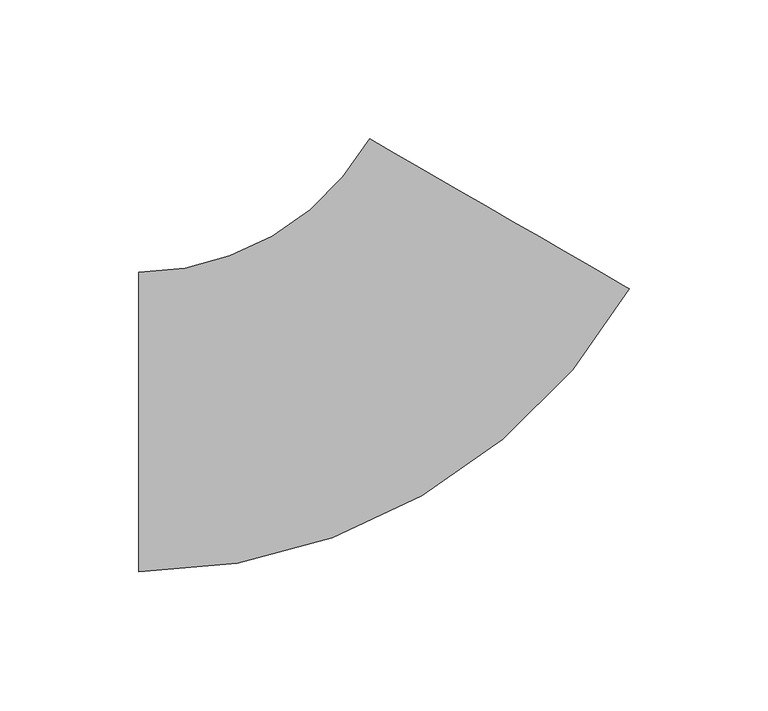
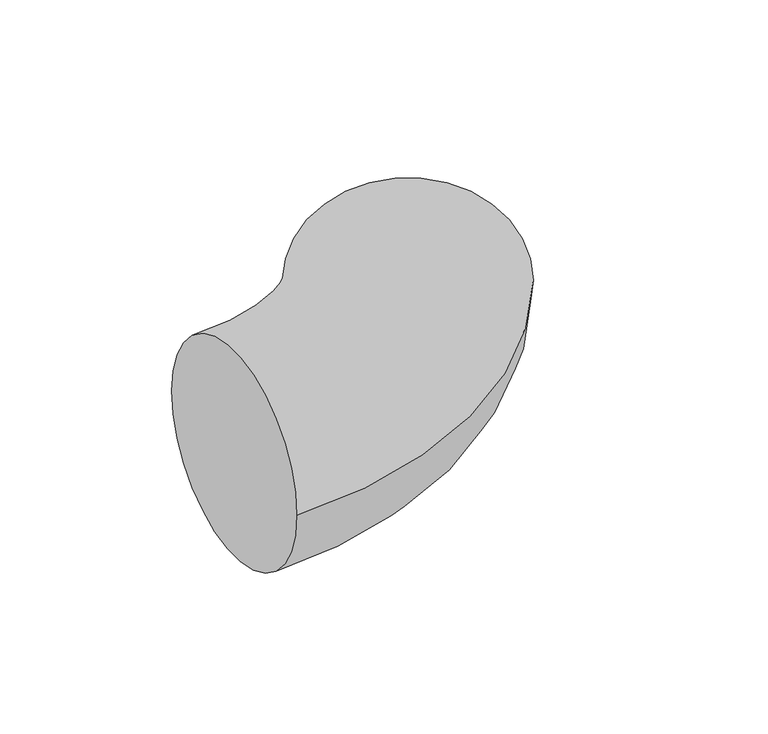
"""IFC4 building model written with IfcOpenShell, lengths in millimetres: pipe fitting geometry, ADSK_ДетальСтальнаяСварная_Отвод_ГОСТ17375-2001 : Исполнение 2."""

import ifcopenshell
import ifcopenshell.guid

model = None  # the IFC model being written
_history = None  # IfcOwnerHistory: only IFC2X3 demands one
_inside = {}  # id of a spatial element -> (the spatial element, [elements in it])
_under = {}  # id of a project, library or spatial element -> (it, [spatial elements below it])
_declared = {}  # id of a project -> (the project, [libraries it declares])
_typed = {}  # id of a type object -> (the type object, [elements of that type])
_made_of = {}  # id of a material, layer set ... -> (it, [elements and type objects made of it])


def new_model(schema):
    """Start an empty IFC model of exactly this schema.

    Asked for "IFC4X3", IfcOpenShell would pick the latest addendum, in which some entities
    have other attributes; the version numbers below select the first issue.
    IFC2X3 requires an IfcOwnerHistory on every rooted entity: one is made here for all.
    """
    global model, _history
    if schema == "IFC4X3":
        model = ifcopenshell.file(schema_version=(4, 3, 0, 0))
    else:
        model = ifcopenshell.file(schema=schema)
    _inside.clear()
    _under.clear()
    _declared.clear()
    _typed.clear()
    _made_of.clear()
    _history = None
    if model.schema == "IFC2X3":
        org = make("IfcOrganization", Name="unknown")
        user = make(
            "IfcPersonAndOrganization",
            ThePerson=make("IfcPerson", FamilyName="unknown"),
            TheOrganization=org,
        )
        app = make(
            "IfcApplication",
            ApplicationDeveloper=org,
            Version="unknown",
            ApplicationFullName="unknown",
            ApplicationIdentifier="unknown",
        )
        _history = make(
            "IfcOwnerHistory",
            OwningUser=user,
            OwningApplication=app,
            ChangeAction="ADDED",
            CreationDate=0,
        )
    return model


def make(cls, **values):
    """One entity of the class cls with the attributes given. An attribute that is None is left unset."""
    return model.create_entity(
        cls, **{name: value for name, value in values.items() if value is not None}
    )


def rooted(cls, **values):
    """An entity with a GlobalId (a new one), such as an element, a storey or a relation."""
    return make(cls, GlobalId=ifcopenshell.guid.new(), OwnerHistory=_history, **values)


def si_unit(unit_type, name, prefix=None):
    """IfcSIUnit, for example si_unit("LENGTHUNIT", "METRE", prefix="MILLI")."""
    return make("IfcSIUnit", UnitType=unit_type, Prefix=prefix, Name=name)


def assignment(units):
    """IfcUnitAssignment: the units of a project."""
    return None if units is None else make("IfcUnitAssignment", Units=units)


def point(xyz):
    """IfcCartesianPoint."""
    return None if xyz is None else make("IfcCartesianPoint", Coordinates=xyz)


def direction(xyz):
    """IfcDirection."""
    return None if xyz is None else make("IfcDirection", DirectionRatios=xyz)


def frame(location, z_axis=None, x_axis=None):
    """IfcAxis2Placement3D, a coordinate frame: its origin and axes. An axis left out is left unset."""
    return make(
        "IfcAxis2Placement3D",
        Location=point(location),
        Axis=direction(z_axis),
        RefDirection=direction(x_axis),
    )


def origin():
    """The frame at (0, 0, 0) with its axes left unset."""
    return frame((0.0, 0.0, 0.0))


def place(relative_to, where):
    """IfcLocalPlacement: puts the frame where relative to a parent placement (None: the world)."""
    return make(
        "IfcLocalPlacement", PlacementRelTo=relative_to, RelativePlacement=where
    )


def context(
    kind, dimensions, precision=None, world=None, true_north=None, identifier=None
):
    """IfcGeometricRepresentationContext, for example the 3D "Model" context."""
    return make(
        "IfcGeometricRepresentationContext",
        ContextIdentifier=identifier,
        ContextType=kind,
        CoordinateSpaceDimension=dimensions,
        Precision=precision,
        WorldCoordinateSystem=world,
        TrueNorth=true_north,
    )


def project(units=None, contexts=None):
    """IfcProject with its units and contexts."""
    return rooted(
        "IfcProject",
        Name="project",
        RepresentationContexts=contexts,
        UnitsInContext=assignment(units),
    )


def spatial(cls, under=None, at=None, **own):
    """A site, building, storey or space (cls), placed at a placement, below another one or the project."""
    s = rooted(cls, ObjectPlacement=at, **own)
    if under is not None:
        _under.setdefault(under.id(), (under, []))[1].append(s)
    return s


def circle_curve(where, radius):
    """IfcCircle in the frame where."""
    return make("IfcCircle", Position=where, Radius=radius)


def ellipse_curve(where, semi_axis1, semi_axis2):
    """IfcEllipse in the frame where."""
    return make(
        "IfcEllipse", Position=where, SemiAxis1=semi_axis1, SemiAxis2=semi_axis2
    )


def trimmed(basis, trim1, trim2, sense, master):
    """IfcTrimmedCurve: the piece of a basis curve between two trims."""
    return make(
        "IfcTrimmedCurve",
        BasisCurve=basis,
        Trim1=trim1,
        Trim2=trim2,
        SenseAgreement=sense,
        MasterRepresentation=master,
    )


def shape(context_of_items, identifier, shape_type, items):
    """IfcShapeRepresentation: the items that make up one representation, for example the "Body"."""
    return make(
        "IfcShapeRepresentation",
        ContextOfItems=context_of_items,
        RepresentationIdentifier=identifier,
        RepresentationType=shape_type,
        Items=items,
    )


def source(mapping_origin, context_of_items, identifier, shape_type, items):
    """IfcRepresentationMap: a shape defined once, which mapped items show again and again."""
    return make(
        "IfcRepresentationMap",
        MappingOrigin=mapping_origin,
        MappedRepresentation=shape(context_of_items, identifier, shape_type, items),
    )


def transform(
    local_origin,
    x_axis=None,
    y_axis=None,
    z_axis=None,
    scale=None,
    scale2=None,
    scale3=None,
    uniform=True,
):
    """IfcCartesianTransformationOperator3D, or its non-uniform kind. x_axis, y_axis, z_axis: its Axis1, 2, 3."""
    if uniform:
        return make(
            "IfcCartesianTransformationOperator3D",
            Axis1=direction(x_axis),
            Axis2=direction(y_axis),
            LocalOrigin=point(local_origin),
            Scale=scale,
            Axis3=direction(z_axis),
        )
    return make(
        "IfcCartesianTransformationOperator3DnonUniform",
        Axis1=direction(x_axis),
        Axis2=direction(y_axis),
        LocalOrigin=point(local_origin),
        Scale=scale,
        Axis3=direction(z_axis),
        Scale2=scale2,
        Scale3=scale3,
    )


def mapped(mapping_source, mapping_target):
    """IfcMappedItem: shows the shape of a source again, moved by a transform."""
    return make(
        "IfcMappedItem", MappingSource=mapping_source, MappingTarget=mapping_target
    )


def made_of(thing, what):
    """Note that an element or type object is made of a material, layer set ...; save() writes the relation."""
    if what is not None:
        _made_of.setdefault(what.id(), (what, []))[1].append(thing)
    return thing


def element(
    cls,
    number,
    at=None,
    inside=None,
    cuts=None,
    type_object=None,
    material=None,
    context=None,
    identifier="Body",
    shape_type=None,
    held_by="IfcProductDefinitionShape",
    body=None,
    shapes=None,
    **own,
):
    """One element of the class cls, such as IfcWall. Its Tag is "e" and its number.

    at: its placement. inside: the storey or other place that contains it. cuts: it is an
    opening in that element (IfcRelVoidsElement). A single representation is given by context,
    identifier, shape_type and body (its items); several are given by shapes. held_by: the class
    of the entity that holds the representations. save() writes the other relations.
    """
    e = rooted(cls, Tag="e%d" % number, ObjectPlacement=at, **own)
    if body is not None:
        shapes = [shape(context, identifier, shape_type, body)]
    if shapes is not None:
        e.Representation = make(held_by, Representations=shapes)
    if inside is not None:
        _inside.setdefault(inside.id(), (inside, []))[1].append(e)
    if cuts is not None:
        rooted(
            "IfcRelVoidsElement", RelatingBuildingElement=cuts, RelatedOpeningElement=e
        )
    if type_object is not None:
        _typed.setdefault(type_object.id(), (type_object, []))[1].append(e)
    return made_of(e, material)


def aggregate(whole, parts):
    """IfcRelAggregates: a whole, such as a stair, and the parts it consists of."""
    return rooted("IfcRelAggregates", RelatingObject=whole, RelatedObjects=parts)


def save(model, path):
    """Write the relations noted so far, then the file.

    IfcRelAggregates (storeys below a building ...), IfcRelContainedInSpatialStructure (elements
    in a storey), IfcRelDefinesByType, IfcRelAssociatesMaterial and IfcRelDeclares: one each for
    every whole, place, type object, material and project.
    """
    for whole, parts in _under.values():
        aggregate(whole, parts)
    for where, things in _inside.values():
        rooted(
            "IfcRelContainedInSpatialStructure",
            RelatedElements=things,
            RelatingStructure=where,
        )
    for kind, things in _typed.values():
        rooted("IfcRelDefinesByType", RelatedObjects=things, RelatingType=kind)
    for what, things in _made_of.values():
        rooted("IfcRelAssociatesMaterial", RelatedObjects=things, RelatingMaterial=what)
    for by, libraries in _declared.values():
        rooted("IfcRelDeclares", RelatingContext=by, RelatedDefinitions=libraries)
    model.write(path)


def plane_surface(at):
    """IfcPlane: the flat surface through the origin of the frame at, square to its z axis."""
    return make("IfcPlane", Position=at)


def revolved_surface(curve, axis_point, axis_direction):
    """IfcSurfaceOfRevolution: the curve turned about the line through axis_point along axis_direction."""
    return make(
        "IfcSurfaceOfRevolution",
        SweptCurve=make("IfcArbitraryOpenProfileDef", ProfileType="CURVE", Curve=curve),
        AxisPosition=make("IfcAxis1Placement", Location=point(axis_point), Axis=direction(axis_direction)),
    )


def advanced_brep(points, edges, surfaces, faces):
    """IfcAdvancedBrep: a solid bounded by faces that lie on surfaces and meet in shared edges.

    An edge is (start, end): straight between two places in points (the first is 0);
    or (start, end, curve); or (start, end, curve, False) where it runs against its curve.
    A face is (place in surfaces, loops), or (place, loops, False) where it looks against
    its surface's normal. A loop lists edges by number (the first is 1), with a minus sign
    where the edge is run from its end to its start. The first loop is the outer one.
    """
    corners = [point(p) for p in points]
    vertices = [make("IfcVertexPoint", VertexGeometry=c) for c in corners]
    made = []
    for start, end, *more in edges:
        made.append(
            make(
                "IfcEdgeCurve",
                EdgeStart=vertices[start],
                EdgeEnd=vertices[end],
                EdgeGeometry=more[0] if more else make("IfcPolyline", Points=[corners[start], corners[end]]),
                SameSense=more[1] if len(more) > 1 else True,
            )
        )
    hull = []
    for where, loops, *sense in faces:
        bounds = []
        for j, loop in enumerate(loops):
            ring = [make("IfcOrientedEdge", EdgeElement=made[abs(k) - 1], Orientation=k > 0) for k in loop]
            bounds.append(
                make(
                    "IfcFaceOuterBound" if j == 0 else "IfcFaceBound",
                    Bound=make("IfcEdgeLoop", EdgeList=ring),
                    Orientation=True,
                )
            )
        hull.append(make("IfcAdvancedFace", Bounds=bounds, FaceSurface=surfaces[where], SameSense=sense[0] if sense else True))
    return make("IfcAdvancedBrep", Outer=make("IfcClosedShell", CfsFaces=hull))


def pipe_fitting_15a9e781(model_context):
    return source(origin(), model_context, "Body", "AdvancedBrep", [
        advanced_brep(
        [(-86.6025404, -54.0, 0.0), (-86.6025404, 54.0, 0.0), (90.066642, 48.0, 0.0), (-3.4641016, 102.0, 0.0)],
        [
            (0, 1, circle_curve(frame((-86.6025404, 0.0, 0.0), z_axis=(-1.0, 0.0, 0.0), x_axis=(0.0, 1.0, 0.0)), 54.0)),
            (1, 0, circle_curve(frame((-86.6025404, 0.0, 0.0), z_axis=(-1.0, 0.0, 0.0), x_axis=(0.0, 1.0, 0.0)), 54.0)),
            (2, 3, circle_curve(frame((43.3012702, 75.0, 0.0), z_axis=(0.49999999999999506, 0.8660254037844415, 0.0), x_axis=(-0.8660254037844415, 0.49999999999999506, 0.0)), 54.0)),
            (3, 2, circle_curve(frame((43.3012702, 75.0, 0.0), z_axis=(0.49999999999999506, 0.8660254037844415, 0.0), x_axis=(-0.8660254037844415, 0.49999999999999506, 0.0)), 54.0)),
            (3, 1, circle_curve(frame((-86.6025404, 150.0, 0.0), z_axis=(0.0, 0.0, -1.0), x_axis=(0.0, -1.0, 0.0)), 96.0)),
            (0, 2, circle_curve(frame((-86.6025404, 150.0, 0.0), z_axis=(0.0, 0.0, 1.0), x_axis=(0.0, -1.0, 0.0)), 204.0)),
        ],
        [
            plane_surface(frame((-86.6025404, 0.0, 0.0), z_axis=(-1.0, 0.0, 0.0), x_axis=(0.0, 0.0, 1.0))),
            plane_surface(frame((43.3012702, 75.0, 0.0), z_axis=(0.4999999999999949, 0.8660254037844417, 0.0), x_axis=(0.0, 0.0, 1.0))),
            revolved_surface(trimmed(ellipse_curve(frame((-86.6025404, 0.0, 0.0), z_axis=(-1.0, 0.0, 0.0), x_axis=(0.0, 1.0, 0.0)), 54.0, 54.0), [point((-86.6025404, -54.0, 0.0))], [point((-86.6025404, 54.0, 0.0))], True, "CARTESIAN"), (-86.6025404, 150.0, 0.0), (0.0, 0.0, 1.0)),
            revolved_surface(trimmed(ellipse_curve(frame((-86.6025404, 0.0, 0.0), z_axis=(-1.0, 0.0, 0.0), x_axis=(0.0, 1.0, 0.0)), 54.0, 54.0), [point((-86.6025404, 54.0, 0.0))], [point((-86.6025404, -54.0, 0.0))], True, "CARTESIAN"), (-86.6025404, 150.0, 0.0), (0.0, 0.0, 1.0)),
        ],
        [
            (0, [[1, 2]]),
            (1, [[3, 4]]),
            (2, [[5, -1, 6, -4]]),
            (3, [[-6, -2, -5, -3]]),
        ],
    ),
    ])


if __name__ == "__main__":
    model = new_model("IFC4")
    model_context = context("Model", 3, world=origin())
    ifc_project = project(units=[si_unit("LENGTHUNIT", "METRE", prefix="MILLI")], contexts=[model_context])
    site = spatial("IfcSite", under=ifc_project)
    building = spatial("IfcBuilding", under=site)
    placement = place(None, origin())
    pipe_fitting_shape = pipe_fitting_15a9e781(model_context)
    element("IfcPipeFitting", 1, ObjectType="ADSK_ДетальСтальнаяСварная_Отвод_ГОСТ17375-2001 : Исполнение 2", at=placement, inside=building, context=model_context, shape_type="MappedRepresentation", body=[
        mapped(pipe_fitting_shape, transform((0.0, 0.0, 0.0), x_axis=(1.0, 0.0, 0.0), y_axis=(0.0, 1.0, 0.0), z_axis=(0.0, 0.0, 1.0))),
    ])
    save(model, "model.ifc")
